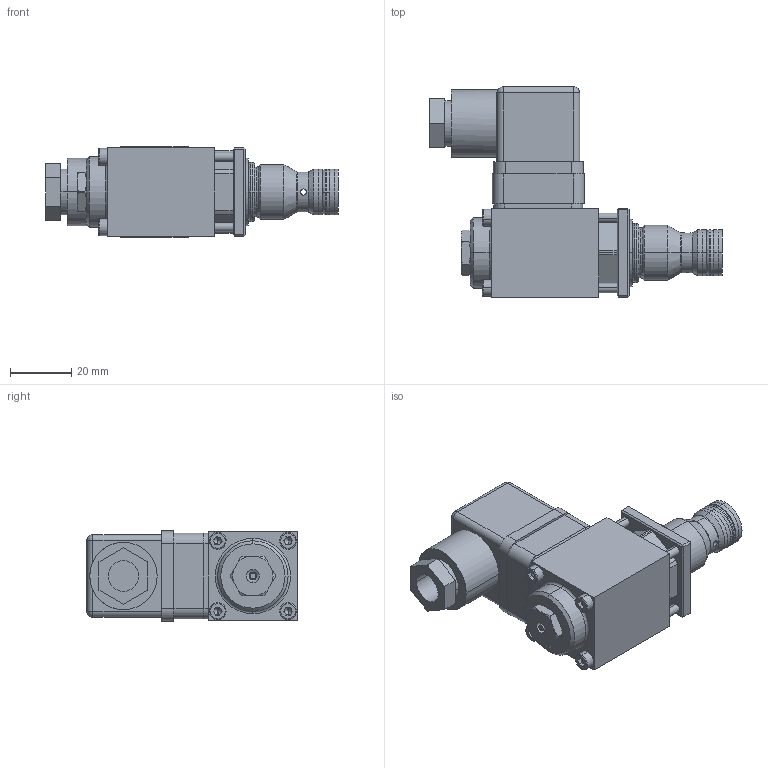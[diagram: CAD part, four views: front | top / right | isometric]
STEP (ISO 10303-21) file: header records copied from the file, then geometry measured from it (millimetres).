
FILE_DESCRIPTION (( 'STEP AP214' ), '1' );
FILE_NAME ('D.PPM18.STEP', '2017-03-24T13:20:12', ( '' ), ( '' ), 'SwSTEP 2.0', 'SolidWorks 2016', '' );
FILE_SCHEMA (( 'AUTOMOTIVE_DESIGN' ));
Length unit declared in the file: millimetre
Products named in the file (1): D.PPM18
Bounding box: 95.65 x 68.8 x 29.5 mm (x, y, z)
Volume: 76558.9 mm3; surface area: 29159.8 mm2
Topology: 14 solids, 14 shells, 679 faces, 1673 edges, 1050 vertices
Faces by surface type: plane 343, cylinder 210, cone 60, torus 44, bspline 22
Entity records: 28024 total; most frequent: CARTESIAN_POINT 4128, DIRECTION 3517, ORIENTED_EDGE 3310, EDGE_CURVE 1655, AXIS2_PLACEMENT_3D 1279, VERTEX_POINT 1050, VECTOR 959, LINE 959
